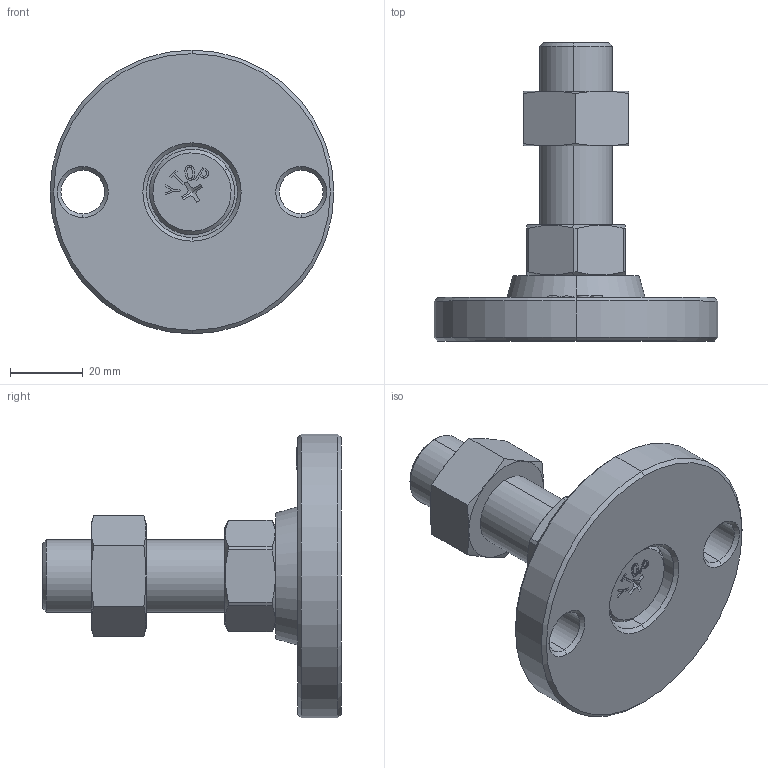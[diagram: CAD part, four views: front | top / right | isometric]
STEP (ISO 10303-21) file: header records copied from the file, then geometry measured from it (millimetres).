
FILE_DESCRIPTION (( 'STEP AP203' ), '1' );
FILE_NAME ('KL-80-2050-P.STEP', '2020-09-10T02:24:57', ( '' ), ( '' ), 'SwSTEP 2.0', 'SolidWorks 2016', '' );
FILE_SCHEMA (( 'CONFIG_CONTROL_DESIGN' ));
Length unit declared in the file: millimetre
Products named in the file (5): 脚垫调节六角螺母M20; KL-80-0.1 KL80菁釱; KL-80-2050-P; 螺丝平底十字带商标M10系列_M10X14; 眻芛蹟邡M20炵蹈_M20X50
Assembly tree (4 placements, depth 2):
  KL-80-2050-P
    KL-80-0.1 KL80菁釱
    眻芛蹟邡M20炵蹈_M20X50
    螺丝平底十字带商标M10系列_M10X14
    脚垫调节六角螺母M20
Bounding box: 78 x 82 x 78 mm (x, y, z)
Volume: 89364 mm3; surface area: 24833 mm2
Topology: 4 solids, 4 shells, 211 faces, 514 edges, 326 vertices
Faces by surface type: plane 101, cone 54, cylinder 32, bspline 24
Entity records: 8435 total; most frequent: CARTESIAN_POINT 3158, ORIENTED_EDGE 1020, DIRECTION 902, EDGE_CURVE 510, VERTEX_POINT 326, AXIS2_PLACEMENT_3D 306, LINE 290, VECTOR 290
